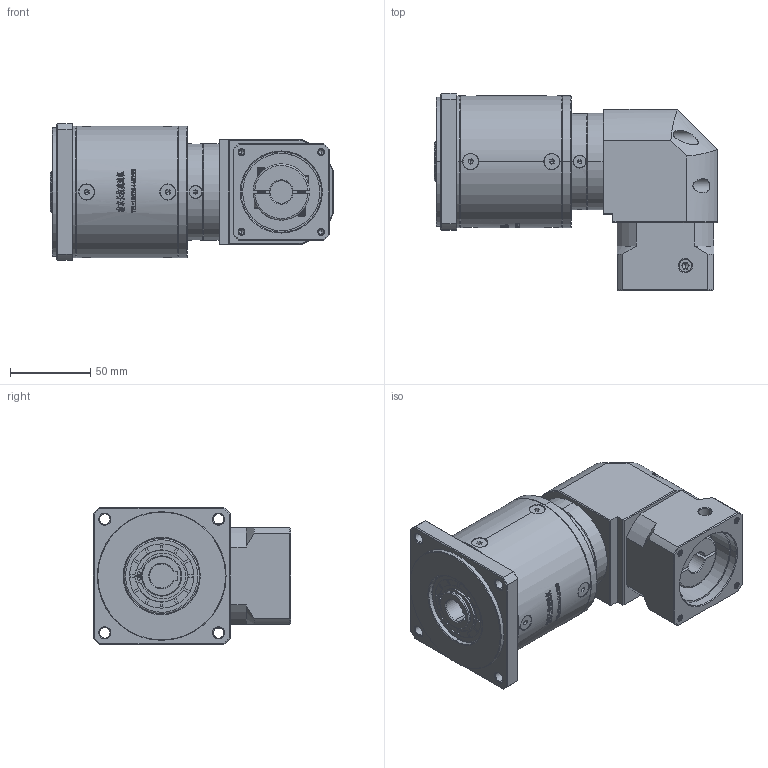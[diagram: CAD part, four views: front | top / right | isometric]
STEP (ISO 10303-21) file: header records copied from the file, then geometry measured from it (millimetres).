
FILE_DESCRIPTION (( 'STEP AP214' ), '1' );
FILE_NAME ('ZFR80-K15-L3-14-50-70-M4.step', '2022-05-08T15:00:42', ( '' ), ( 'Microsoft' ), 'SwSTEP 2.0', 'SolidWorks 2016', '' );
FILE_SCHEMA (( 'AUTOMOTIVE_DESIGN' ));
Length unit declared in the file: millimetre
Products named in the file (1): ZFR80-K15-L3-14-50-70-M4
Bounding box: 176 x 122.7 x 85 mm (x, y, z)
Volume: 870603.5 mm3; surface area: 105982.7 mm2
Topology: 17 solids, 18 shells, 3020 faces, 8042 edges, 5178 vertices
Faces by surface type: plane 1594, bspline 610, cylinder 433, cone 375, torus 8
Entity records: 157349 total; most frequent: CARTESIAN_POINT 54169, ORIENTED_EDGE 15996, DIRECTION 12176, EDGE_CURVE 7998, VERTEX_POINT 5178, VECTOR 4924, LINE 4924, AXIS2_PLACEMENT_3D 3626
